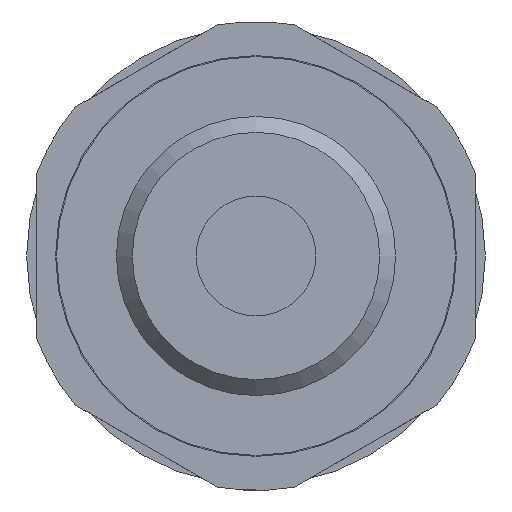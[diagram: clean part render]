
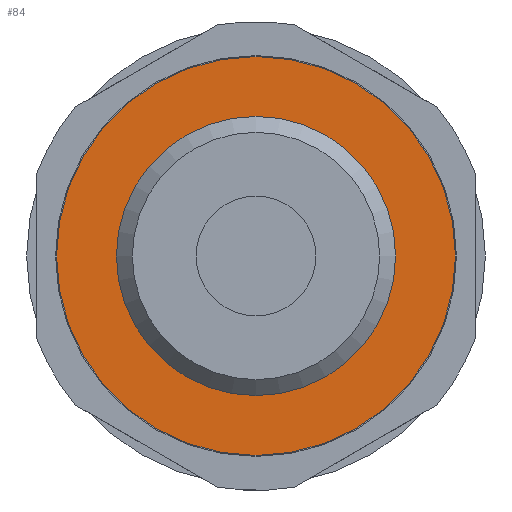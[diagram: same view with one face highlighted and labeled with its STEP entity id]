
A CAD part, front view. The second image highlights one B-rep face of the part: STEP entity #84.
In plain terms, the highlighted planar face has unit normal (0, -1, 0).
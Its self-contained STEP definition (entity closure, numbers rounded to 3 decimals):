
#84 = ADVANCED_FACE( '', ( #132, #133 ), #134, .F. );
#132 = FACE_BOUND( '', #220, .T. );
#133 = FACE_OUTER_BOUND( '', #221, .T. );
#134 = PLANE( '', #222 );
#220 = EDGE_LOOP( '', ( #338 ) );
#221 = EDGE_LOOP( '', ( #339 ) );
#222 = AXIS2_PLACEMENT_3D( '', #340, #341, #342 );
#338 = ORIENTED_EDGE( '', *, *, #520, .F. );
#339 = ORIENTED_EDGE( '', *, *, #521, .T. );
#340 = CARTESIAN_POINT( '', ( 10., 0., 0. ) );
#341 = DIRECTION( '', ( 0., 1., 0. ) );
#342 = DIRECTION( '', ( 0., 0., 1. ) );
#520 = EDGE_CURVE( '', #596, #596, #597, .T. );
#521 = EDGE_CURVE( '', #598, #598, #599, .T. );
#596 = VERTEX_POINT( '', #725 );
#597 = CIRCLE( '', #726, 7. );
#598 = VERTEX_POINT( '', #727 );
#599 = CIRCLE( '', #728, 10. );
#725 = CARTESIAN_POINT( '', ( 0., 0., -7. ) );
#726 = AXIS2_PLACEMENT_3D( '', #824, #825, #826 );
#727 = CARTESIAN_POINT( '', ( 0., 0., -10. ) );
#728 = AXIS2_PLACEMENT_3D( '', #827, #828, #829 );
#824 = CARTESIAN_POINT( '', ( 0., 0., 0. ) );
#825 = DIRECTION( '', ( 0., -1., 0. ) );
#826 = DIRECTION( '', ( 0., 0., -1. ) );
#827 = CARTESIAN_POINT( '', ( 0., 0., 0. ) );
#828 = DIRECTION( '', ( 0., -1., 0. ) );
#829 = DIRECTION( '', ( 0., 0., -1. ) );
